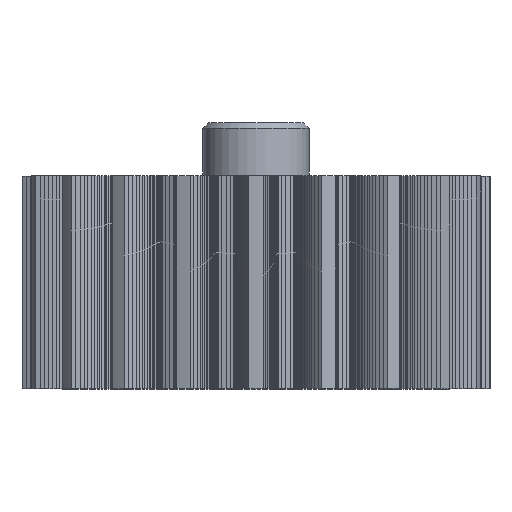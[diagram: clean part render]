
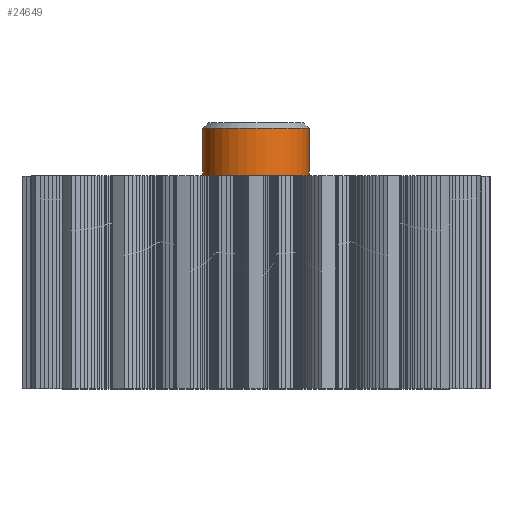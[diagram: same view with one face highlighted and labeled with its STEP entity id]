
A CAD part, top view. The second image highlights one B-rep face of the part: STEP entity #24649.
In plain terms, the highlighted cylindrical face has radius 10 mm (diameter 20 mm), a full revolution.
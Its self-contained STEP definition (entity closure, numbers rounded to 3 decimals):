
#5945=CYLINDRICAL_SURFACE('',#25661,10.);
#5968=FACE_OUTER_BOUND('',#6954,.T.);
#6954=EDGE_LOOP('',(#18754,#18755,#18756,#18757,#18758));
#7943=LINE('',#31837,#10846);
#10846=VECTOR('',#26758,10.);
#13749=CIRCLE('',#25659,10.);
#13750=CIRCLE('',#25660,10.);
#13751=CIRCLE('',#25662,10.);
#13835=VERTEX_POINT('',#31830);
#13836=VERTEX_POINT('',#31832);
#13837=VERTEX_POINT('',#31836);
#15802=EDGE_CURVE('',#13835,#13836,#13749,.T.);
#15803=EDGE_CURVE('',#13836,#13835,#13750,.T.);
#15804=EDGE_CURVE('',#13836,#13837,#7943,.T.);
#15805=EDGE_CURVE('',#13837,#13837,#13751,.T.);
#18754=ORIENTED_EDGE('',*,*,#15802,.F.);
#18755=ORIENTED_EDGE('',*,*,#15803,.F.);
#18756=ORIENTED_EDGE('',*,*,#15804,.T.);
#18757=ORIENTED_EDGE('',*,*,#15805,.T.);
#18758=ORIENTED_EDGE('',*,*,#15804,.F.);
#24649=ADVANCED_FACE('',(#5968),#5945,.T.);
#25659=AXIS2_PLACEMENT_3D('',#31833,#26752,#26753);
#25660=AXIS2_PLACEMENT_3D('',#31834,#26754,#26755);
#25661=AXIS2_PLACEMENT_3D('',#31835,#26756,#26757);
#25662=AXIS2_PLACEMENT_3D('',#31838,#26759,#26760);
#26752=DIRECTION('center_axis',(0.,1.,0.));
#26753=DIRECTION('ref_axis',(-1.,0.,0.));
#26754=DIRECTION('center_axis',(0.,1.,0.));
#26755=DIRECTION('ref_axis',(-1.,0.,0.));
#26756=DIRECTION('center_axis',(0.,1.,0.));
#26757=DIRECTION('ref_axis',(1.,0.,0.));
#26758=DIRECTION('',(0.,-1.,0.));
#26759=DIRECTION('center_axis',(0.,1.,0.));
#26760=DIRECTION('ref_axis',(1.,0.,0.));
#31830=CARTESIAN_POINT('',(10.,49.,0.));
#31832=CARTESIAN_POINT('',(-10.,49.,0.));
#31833=CARTESIAN_POINT('Origin',(0.,49.,0.));
#31834=CARTESIAN_POINT('Origin',(0.,49.,0.));
#31835=CARTESIAN_POINT('Origin',(0.,25.,0.));
#31836=CARTESIAN_POINT('',(-10.,40.,0.));
#31837=CARTESIAN_POINT('',(-10.,25.,0.));
#31838=CARTESIAN_POINT('Origin',(0.,40.,0.));
